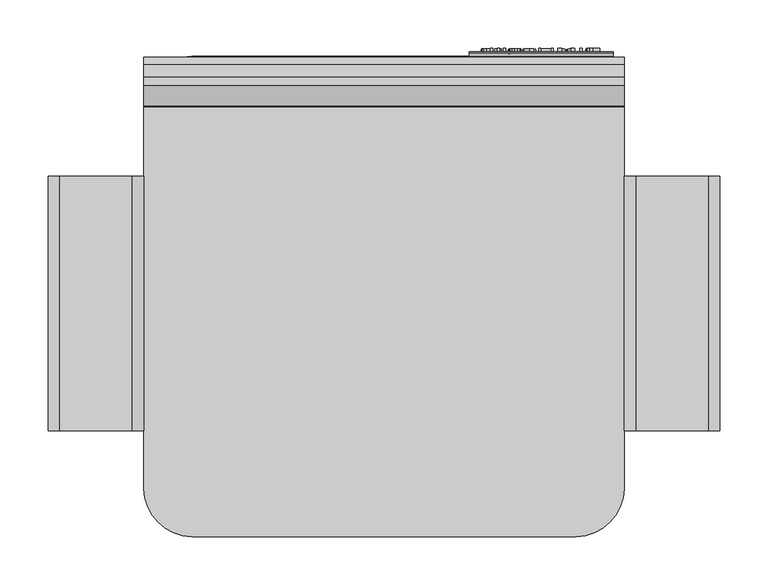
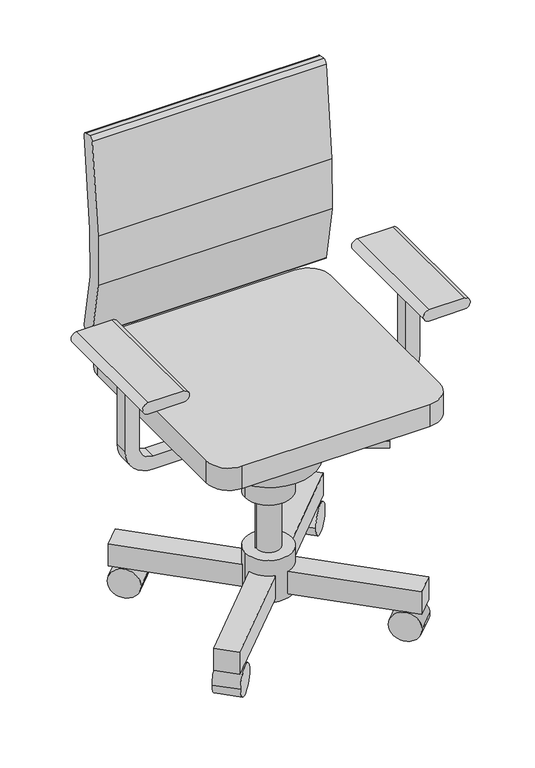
"""IFC4 building model written with IfcOpenShell, lengths in millimetres: furniture geometry, BIMHealth-Chair_Operator-LOD2A-v1 : BIMHealth-Chair_Operator-LOD2A-v1."""

from ifc_helpers import new_model, si_unit, point, frame, frame_2d, origin, place, context, project, spatial, polyline, circle_curve, trimmed, segment, composite_curve, outline, extrude, source, transform, mapped, element, save


def furniture_d395b82f(model_context):
    return source(origin(), model_context, "Body", "SweptSolid", [
        extrude(outline(polyline([(436.6618506, -375.0897778), (242.5, -262.9903811), (257.5, -237.0096189), (451.6618506, -349.1090157), (436.6618506, -375.0897778)])), frame((0.0, 0.0, 380.0), z_axis=(0.0, 0.0, 1.0), x_axis=(1.0, 0.0, 0.0)), (0.0, 0.0, 1.0), 15.0),
        extrude(outline(composite_curve([segment(trimmed(circle_curve(frame_2d((250.0, -250.0)), 50.0), [point((200.0, -250.0))], [point((300.0, -250.0))], False, "CARTESIAN"), True, "CONTINUOUS"), segment(trimmed(circle_curve(frame_2d((250.0, -250.0)), 50.0), [point((300.0, -250.0))], [point((200.0, -250.0))], False, "CARTESIAN"), True, "CONTINUOUS")], self_intersect=False)), frame((0.0, 0.0, 275.0), z_axis=(0.0, 0.0, 1.0), x_axis=(1.0, 0.0, 0.0)), (0.0, 0.0, 1.0), 75.0),
        extrude(outline(polyline([(-7.4567308, 0.0), (0.0, 0.0), (3.15625, -0.3389424), (5.2980769, -1.3389424), (6.7331731, -3.2235577), (7.3125, -5.8701923), (6.4639423, -8.9326923), (4.0384615, -10.7692308), (6.0360577, -12.5120193), (6.6971154, -14.8125), (5.9110577, -17.3317308), (3.7379808, -19.1129808), (0.0576923, -19.6923077), (-7.4567308, -19.6923077), (-7.4567308, 0.0)]), holes=[polyline([(-4.9951923, -11.6923077), (-4.9951923, -17.2307693), (-0.8413461, -17.2307693), (2.3221154, -16.9735577), (3.7403846, -16.0240385), (4.2355769, -14.4182693), (3.7043269, -12.8149039), (2.125, -11.9038462), (-0.5, -11.6923077), (-4.9951923, -11.6923077)]), polyline([(-4.9951923, -2.4615385), (-4.9951923, -9.2307692), (-0.1875, -9.2307692), (2.8533654, -8.9014423), (4.3798077, -7.7596154), (4.8509615, -5.8461538), (3.4254808, -3.09375), (1.8798077, -2.5576923), (0.0528846, -2.4615385), (-4.9951923, -2.4615385)])]), frame((467.2449891, 6.6775588, 981.5556118), z_axis=(0.0, -0.9945218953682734, 0.10452846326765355), x_axis=(-1.0, 0.0, 0.0)), (0.0, 0.0, 1.0), 5.0),
        extrude(outline(polyline([(0.0, -2.4615385), (0.0, 0.0), (4.9999999, 0.0), (4.9999999, -2.4615385), (0.0, -2.4615385)])), frame((456.2401814, 6.6775588, 981.5556118), z_axis=(0.0, 0.10452846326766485, 0.9945218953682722), x_axis=(0.0, -0.9945218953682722, 0.10452846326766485)), (0.0, 0.0, 1.0), 19.6923077),
        extrude(outline(polyline([(-2.4615384, 0.0), (0.0, 0.0), (0.0, -17.2307693), (4.9519231, 0.0), (8.2836539, 0.0), (13.2307693, -17.2307693), (13.2307693, 0.0), (15.6923077, 0.0), (15.6923077, -19.6923077), (11.4567308, -19.6923077), (7.4951924, -6.0528846), (6.6153847, -2.9134616), (5.798077, -5.8125), (1.7596154, -19.6923077), (-2.4615384, -19.6923077), (-2.4615384, 0.0)])), frame((446.3940276, 6.6775588, 981.5556118), z_axis=(0.0, -0.9945218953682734, 0.10452846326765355), x_axis=(-1.0, 0.0, 0.0)), (0.0, 0.0, 1.0), 5.0),
        extrude(outline(polyline([(-2.4615385, 0.0), (0.0, 0.0), (0.0, -9.2307692), (10.4615385, -9.2307692), (10.4615385, 0.0), (12.9230769, 0.0), (12.9230769, -19.6923077), (10.4615385, -19.6923077), (10.4615385, -11.6923077), (0.0, -11.6923077), (0.0, -19.6923077), (-2.4615385, -19.6923077), (-2.4615385, 0.0)])), frame((423.9324891, 6.6775588, 981.5556118), z_axis=(0.0, -0.9945218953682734, 0.10452846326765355), x_axis=(-1.0, 0.0, 0.0)), (0.0, 0.0, 1.0), 5.0),
        extrude(outline(polyline([(-2.2814057, 0.0), (0.0, 0.0), (2.0480384, 1.3765779), (3.4549295, 4.4273492), (2.1420986, 7.6681357), (-6.0377959, 0.1696205), (-8.7913973, 5.4335929), (-6.8870124, 10.2843245), (-1.9992252, 12.4452574), (3.3875048, 9.8883578), (6.003415, 4.7275283), (3.8503389, -0.3006806), (0.1146777, -2.5362264), (-3.7386703, -1.9482945), (-2.2814057, 0.0)]), holes=[polyline([(0.3732318, 9.3799423), (-2.3418651, 10.1174346), (-5.1114589, 8.5794276), (-6.5357355, 5.4484708), (-5.6180913, 3.1889085), (0.3732318, 9.3799423)])]), frame((398.4709506, 6.9564689, 984.209264), z_axis=(0.0, -0.9945218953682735, 0.10452846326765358), x_axis=(0.6954214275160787, -0.07511437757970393, -0.7146655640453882)), (0.0, 0.0, 1.0), 5.0),
        extrude(outline(polyline([(-1.946017, 1e-07), (0.0, 0.0), (0.7784068, -2.3352204), (-1.3401673, -2.524501), (-5.4366851, -3.7582453), (-8.3420277, -4.7266929), (-10.4233537, -5.2937744), (-12.2469845, -5.1060142), (-13.8220421, -3.854786), (-15.1804531, -1.1630492), (-15.7376525, 2.0744846), (-15.0793515, 4.554136), (-13.135615, 6.3245553), (-12.0653055, 4.0866358), (-13.2838467, 2.4287205), (-12.9455742, -0.0836179), (-11.4100451, -2.4401228), (-8.9562393, -2.3215375), (-9.5035566, 1.9961878), (-9.8258656, 4.1337659), (-9.6046583, 6.024291), (-8.6552148, 7.6457185), (-6.9570109, 8.7084262), (-3.7301194, 8.4689749), (-1.4914397, 5.4473273), (-1.1181997, 2.7920784), (-1.946017, 1e-07)]), holes=[polyline([(-6.2880676, -1.4397485), (-4.2766765, -0.3511952), (-3.4321355, 1.6229478), (-3.6609446, 4.1717741), (-7.447316, 4.5845425), (-7.1561736, 2.4492449), (-6.2880676, -1.4397485)])]), frame((382.0863352, 6.6775588, 981.5556118), z_axis=(0.0, -0.9945218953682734, 0.10452846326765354), x_axis=(-0.3162277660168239, -0.09916440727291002, -0.9434863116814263)), (0.0, 0.0, 1.0), 5.0),
        extrude(outline(polyline([(0.0, -2.4615384), (0.0, 0.0), (4.9999999, 0.0), (4.9999999, -2.4615384), (0.0, -2.4615384)])), frame((376.855566, 6.6775588, 981.5556118), z_axis=(0.0, 0.10452846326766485, 0.9945218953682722), x_axis=(0.0, -0.9945218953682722, 0.10452846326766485)), (0.0, 0.0, 1.0), 19.6923077),
        extrude(outline(polyline([(-9.0385156, 0.0), (0.0, 0.0), (-0.3351862, 2.4386107), (2.1034244, 2.7737969), (2.4386106, 0.3351862), (7.3539351, 1.0107959), (6.2554851, -1.6248676), (2.7737968, -2.1034245), (3.0251865, -3.9323824), (0.5865759, -4.2675686), (0.3351862, -2.4386107), (-7.6236388, -3.5325485), (-11.6337058, -2.744332), (-12.3194027, -0.7566892), (-12.336755, 1.0995843), (-9.0385156, 0.0)])), frame((367.9324891, 7.9319004, 993.4898746), z_axis=(0.0, -0.9945218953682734, 0.10452846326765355), x_axis=(0.13616939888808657, 0.10355484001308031, 0.9852584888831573)), (0.0, 0.0, 1.0), 5.0),
        extrude(outline(polyline([(-2.4615385, 0.0), (0.0, 0.0), (0.0, -7.6826923), (0.4014423, -10.2740385), (1.7475961, -11.7596154), (3.7644231, -12.3076923), (5.9855769, -11.4951924), (6.7692308, -8.8990385), (6.7692308, 0.0), (9.2307692, 0.0), (9.2307692, -9.1538461), (8.7259615, -12.3894231), (7.0480769, -14.1370193), (4.2836538, -14.7692308), (0.0, -12.4519231), (0.0, -19.6923077), (-2.4615385, -19.6923077), (-2.4615385, 0.0)])), frame((360.5478737, 6.6775588, 981.5556118), z_axis=(0.0, -0.9945218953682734, 0.10452846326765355), x_axis=(-1.0, 0.0, 0.0)), (0.0, 0.0, 1.0), 5.0),
        extrude(outline(composite_curve([segment(polyline([(650.0, 512.5), (650.0, 587.5)]), True, "CONTINUOUS"), segment(trimmed(circle_curve(frame_2d((662.5, 587.5)), 12.5), [point((650.0, 587.5))], [point((675.0, 587.5))], False, "CARTESIAN"), True, "CONTINUOUS"), segment(polyline([(675.0, 587.5), (675.0, 512.5)]), True, "CONTINUOUS"), segment(trimmed(circle_curve(frame_2d((662.5, 512.5)), 12.5), [point((675.0, 512.5))], [point((650.0, 512.5))], False, "CARTESIAN"), True, "CONTINUOUS")], self_intersect=False)), frame((0.0, -390.0, 0.0), z_axis=(0.0, 1.0, 0.0), x_axis=(0.0, 0.0, 1.0)), (0.0, 0.0, 1.0), 265.0),
        extrude(outline(composite_curve([segment(trimmed(circle_curve(frame_2d((480.0, 505.0)), 60.0), [point((420.0, 505.0))], [point((480.0, 565.0))], False, "CARTESIAN"), True, "CONTINUOUS"), segment(polyline([(480.0, 565.0), (650.0, 565.0), (650.0, 535.0), (480.0, 535.0)]), True, "CONTINUOUS"), segment(trimmed(circle_curve(frame_2d((480.0, 505.0)), 30.0), [point((480.0, 535.0))], [point((450.0, 505.0))], True, "CARTESIAN"), True, "CONTINUOUS"), segment(polyline([(450.0, 505.0), (450.0, 250.0), (420.0, 250.0), (420.0, 505.0)]), True, "CONTINUOUS")], self_intersect=False)), frame((0.0, -265.0, 0.0), z_axis=(0.0, 1.0, 0.0), x_axis=(0.0, 0.0, 1.0)), (0.0, 0.0, 1.0), 30.0),
        extrude(outline(composite_curve([segment(trimmed(circle_curve(frame_2d((662.5, -12.5)), 12.5), [point((650.0, -12.5))], [point((675.0, -12.5))], False, "CARTESIAN"), True, "CONTINUOUS"), segment(polyline([(675.0, -12.5), (675.0, -87.5)]), True, "CONTINUOUS"), segment(trimmed(circle_curve(frame_2d((662.5, -87.5)), 12.5), [point((675.0, -87.5))], [point((650.0, -87.5))], False, "CARTESIAN"), True, "CONTINUOUS"), segment(polyline([(650.0, -87.5), (650.0, -12.5)]), True, "CONTINUOUS")], self_intersect=False)), frame((0.0, -390.0, 0.0), z_axis=(0.0, 1.0, 0.0), x_axis=(0.0, 0.0, 1.0)), (0.0, 0.0, 1.0), 265.0),
        extrude(outline(composite_curve([segment(polyline([(420.0, -5.0), (420.0, 250.0), (450.0, 250.0), (450.0, -5.0)]), True, "CONTINUOUS"), segment(trimmed(circle_curve(frame_2d((480.0, -5.0)), 30.0), [point((450.0, -5.0))], [point((480.0, -35.0))], True, "CARTESIAN"), True, "CONTINUOUS"), segment(polyline([(480.0, -35.0), (650.0, -35.0), (650.0, -65.0), (480.0, -65.0)]), True, "CONTINUOUS"), segment(trimmed(circle_curve(frame_2d((480.0, -5.0)), 60.0), [point((480.0, -65.0))], [point((420.0, -5.0))], False, "CARTESIAN"), True, "CONTINUOUS")], self_intersect=False)), frame((0.0, -265.0, 0.0), z_axis=(0.0, 1.0, 0.0), x_axis=(0.0, 0.0, 1.0)), (0.0, 0.0, 1.0), 30.0),
        extrude(outline(composite_curve([segment(trimmed(circle_curve(frame_2d((0.0, -32.4999999)), 32.5), [point((0.0, -65.0))], [point((0.0, 0.0))], False, "CARTESIAN"), True, "CONTINUOUS"), segment(trimmed(circle_curve(frame_2d((0.0, -32.4999999)), 32.5), [point((0.0, 0.0))], [point((0.0, -65.0))], False, "CARTESIAN"), True, "CONTINUOUS")], self_intersect=False)), frame((398.2021241, -436.8054211, 32.4786713), z_axis=(0.7071067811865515, 0.7071067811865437, 0.0), x_axis=(0.0, 0.0, -1.0)), (0.0, 0.0, 1.0), 54.4803427),
        extrude(outline(composite_curve([segment(trimmed(circle_curve(frame_2d((0.0, -32.4999999)), 32.5), [point((0.0, -65.0))], [point((0.0, 0.0))], False, "CARTESIAN"), True, "CONTINUOUS"), segment(trimmed(circle_curve(frame_2d((0.0, -32.4999999)), 32.5), [point((0.0, 0.0))], [point((0.0, -65.0))], False, "CARTESIAN"), True, "CONTINUOUS")], self_intersect=False)), frame((101.7978759, -436.8054211, 32.4786713), z_axis=(-0.7071067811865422, 0.7071067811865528, 0.0), x_axis=(0.0, 0.0, 1.0)), (0.0, 0.0, 1.0), 54.4803427),
        extrude(outline(composite_curve([segment(trimmed(circle_curve(frame_2d((0.0, -32.5)), 32.5), [point((0.0, -65.0))], [point((0.0, 0.0))], False, "CARTESIAN"), True, "CONTINUOUS"), segment(trimmed(circle_curve(frame_2d((0.0, -32.5)), 32.5), [point((0.0, 0.0))], [point((0.0, -65.0))], False, "CARTESIAN"), True, "CONTINUOUS")], self_intersect=False)), frame((436.7255438, -101.7179987, 32.4786713), z_axis=(-0.7071067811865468, 0.7071067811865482, 0.0), x_axis=(0.0, 0.0, -1.0)), (0.0, 0.0, 1.0), 54.4803427),
        extrude(outline(composite_curve([segment(trimmed(circle_curve(frame_2d((0.0, -32.5)), 32.5), [point((0.0, -65.0))], [point((0.0, 0.0))], False, "CARTESIAN"), True, "CONTINUOUS"), segment(trimmed(circle_curve(frame_2d((0.0, -32.5)), 32.5), [point((0.0, 0.0))], [point((0.0, -65.0))], False, "CARTESIAN"), True, "CONTINUOUS")], self_intersect=False)), frame((63.2744562, -101.7179987, 32.4786713), z_axis=(0.7071067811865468, 0.7071067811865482, 0.0), x_axis=(0.0, 0.0, 1.0)), (0.0, 0.0, 1.0), 54.4803427),
        extrude(outline(composite_curve([segment(trimmed(circle_curve(frame_2d((250.0, -250.0)), 50.0), [point((200.0, -250.0))], [point((300.0, -250.0))], False, "CARTESIAN"), True, "CONTINUOUS"), segment(trimmed(circle_curve(frame_2d((250.0, -250.0)), 50.0), [point((300.0, -250.0))], [point((200.0, -250.0))], False, "CARTESIAN"), True, "CONTINUOUS")], self_intersect=False)), frame((0.0, 0.0, 55.0), z_axis=(0.0, 0.0, 1.0), x_axis=(1.0, 0.0, 0.0)), (0.0, 0.0, 1.0), 95.0),
        extrude(outline(polyline([(250.0, -285.3553391), (55.5456352, -479.8097039), (20.1902961, -444.4543648), (214.6446609, -250.0), (20.1902961, -55.5456352), (55.5456352, -20.1902961), (250.0, -214.6446609), (444.4543648, -20.1902961), (479.8097039, -55.5456352), (285.3553391, -250.0), (479.8097039, -444.4543648), (444.4543648, -479.8097039), (250.0, -285.3553391)])), frame((0.0, 0.0, 65.0), z_axis=(0.0, 0.0, 1.0), x_axis=(1.0, 0.0, 0.0)), (0.0, 0.0, 1.0), 50.0),
        extrude(outline(polyline([(400.0, -100.0), (400.0, -400.0), (100.0, -400.0), (100.0, -100.0), (400.0, -100.0)])), frame((0.0, 0.0, 450.0), z_axis=(0.0, 0.0, 1.0), x_axis=(1.0, 0.0, 0.0)), (0.0, 0.0, 1.0), 50.0),
        extrude(outline(composite_curve([segment(trimmed(circle_curve(frame_2d((250.0, -250.0)), 25.0), [point((225.0, -250.0))], [point((275.0, -250.0))], False, "CARTESIAN"), True, "CONTINUOUS"), segment(trimmed(circle_curve(frame_2d((250.0, -250.0)), 25.0), [point((275.0, -250.0))], [point((225.0, -250.0))], False, "CARTESIAN"), True, "CONTINUOUS")], self_intersect=False)), frame((0.0, 0.0, 115.0), z_axis=(0.0, 0.0, 1.0), x_axis=(1.0, 0.0, 0.0)), (0.0, 0.0, 1.0), 235.0),
        extrude(outline(composite_curve([segment(trimmed(circle_curve(frame_2d((502.3406567, 757.5879599)), 557.3933698), [point((-52.4676053, 703.9674314))], [point((-51.9645135, 816.1810227))], False, "CARTESIAN"), True, "CONTINUOUS"), segment(polyline([(-51.9645135, 816.1810227), (-30.794243, 1016.457127)]), True, "CONTINUOUS"), segment(trimmed(circle_curve(frame_2d((-22.119351, 1015.5401438)), 8.7232225), [point((-30.794243, 1016.457127))], [point((-21.1544777, 1024.2098399))], False, "CARTESIAN"), True, "CONTINUOUS"), segment(polyline([(-21.1544777, 1024.2098399), (-8.621704, 1022.8843245)]), True, "CONTINUOUS"), segment(trimmed(circle_curve(frame_2d((-9.5391891, 1014.2094855)), 8.7232225), [point((-8.621704, 1022.8843245))], [point((-0.864739, 1013.2883308))], False, "CARTESIAN"), True, "CONTINUOUS"), segment(polyline([(-0.864739, 1013.2883308), (-22.1040053, 813.2796378)]), True, "CONTINUOUS"), segment(trimmed(circle_curve(frame_2d((502.3406567, 757.5879599)), 527.3933698), [point((-22.1040053, 813.2796378))], [point((-22.7167957, 708.0053203))], True, "CARTESIAN"), True, "CONTINUOUS"), segment(polyline([(-22.7167957, 708.0053203), (-1.0511759, 585.1334841)]), True, "CONTINUOUS"), segment(trimmed(circle_curve(frame_2d((-5.5481353, 583.966199)), 4.6459873), [point((-1.0511759, 585.1334841))], [point((-5.1069737, 579.3412044))], False, "CARTESIAN"), True, "CONTINUOUS"), segment(polyline([(-5.1069737, 579.3412044), (-24.8031288, 575.8682409)]), True, "CONTINUOUS"), segment(trimmed(circle_curve(frame_2d((-25.9704139, 580.3652003)), 4.6459873), [point((-24.8031288, 575.8682409))], [point((-30.5954084, 579.9240388))], False, "CARTESIAN"), True, "CONTINUOUS"), segment(polyline([(-30.5954084, 579.9240388), (-52.4676053, 703.9674314)]), True, "CONTINUOUS")], self_intersect=False)), frame((0.0, 0.0, 0.0), z_axis=(1.0, 0.0, 0.0), x_axis=(0.0, 1.0, 0.0)), (0.0, 0.0, 1.0), 500.0),
        extrude(outline(composite_curve([segment(trimmed(circle_curve(frame_2d((250.0, -250.0)), 100.0), [point((150.0, -250.0))], [point((350.0, -250.0))], False, "CARTESIAN"), True, "CONTINUOUS"), segment(trimmed(circle_curve(frame_2d((250.0, -250.0)), 100.0), [point((350.0, -250.0))], [point((150.0, -250.0))], False, "CARTESIAN"), True, "CONTINUOUS")], self_intersect=False)), frame((0.0, 0.0, 350.0), z_axis=(0.0, 0.0, 1.0), x_axis=(1.0, 0.0, 0.0)), (0.0, 0.0, 1.0), 150.0),
        extrude(outline(composite_curve([segment(trimmed(circle_curve(frame_2d((50.0, -450.0)), 50.0), [point((50.0, -500.0))], [point((0.0, -450.0))], False, "CARTESIAN"), True, "CONTINUOUS"), segment(polyline([(0.0, -450.0), (0.0, -50.0)]), True, "CONTINUOUS"), segment(trimmed(circle_curve(frame_2d((50.0, -50.0)), 50.0), [point((0.0, -50.0))], [point((50.0, 0.0))], False, "CARTESIAN"), True, "CONTINUOUS"), segment(polyline([(50.0, 0.0), (450.0, 0.0)]), True, "CONTINUOUS"), segment(trimmed(circle_curve(frame_2d((450.0, -50.0)), 50.0), [point((450.0, 0.0))], [point((500.0, -50.0))], False, "CARTESIAN"), True, "CONTINUOUS"), segment(polyline([(500.0, -50.0), (500.0, -450.0)]), True, "CONTINUOUS"), segment(trimmed(circle_curve(frame_2d((450.0, -450.0)), 50.0), [point((500.0, -450.0))], [point((450.0, -500.0))], False, "CARTESIAN"), True, "CONTINUOUS"), segment(polyline([(450.0, -500.0), (50.0, -500.0)]), True, "CONTINUOUS")], self_intersect=False)), frame((0.0, 0.0, 500.0), z_axis=(0.0, 0.0, 1.0), x_axis=(1.0, 0.0, 0.0)), (0.0, 0.0, 1.0), 50.0),
        extrude(outline(polyline([(0.0, -150.0), (0.0, 0.0), (0.7492295, 0.0), (0.7492295, -150.0), (0.0, -150.0)])), frame((338.7166083, 0.0, 973.0244517), z_axis=(0.0, 0.10452846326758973, 0.9945218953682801), x_axis=(0.0, 0.9945218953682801, -0.10452846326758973)), (0.0, 0.0, 1.0), 37.5),
    ])


if __name__ == "__main__":
    model = new_model("IFC4")
    model_context = context("Model", 3, world=origin())
    ifc_project = project(units=[si_unit("LENGTHUNIT", "METRE", prefix="MILLI")], contexts=[model_context])
    site = spatial("IfcSite", under=ifc_project)
    building = spatial("IfcBuilding", under=site)
    placement = place(None, origin())
    furniture_shape = furniture_d395b82f(model_context)
    element("IfcFurniture", 1, ObjectType="BIMHealth-Chair_Operator-LOD2A-v1 : BIMHealth-Chair_Operator-LOD2A-v1", at=placement, inside=building, context=model_context, shape_type="MappedRepresentation", body=[
        mapped(furniture_shape, transform((0.0, 0.0, 0.0), x_axis=(1.0, 0.0, 0.0), y_axis=(0.0, 1.0, 0.0), z_axis=(0.0, 0.0, 1.0))),
    ])
    save(model, "model.ifc")
